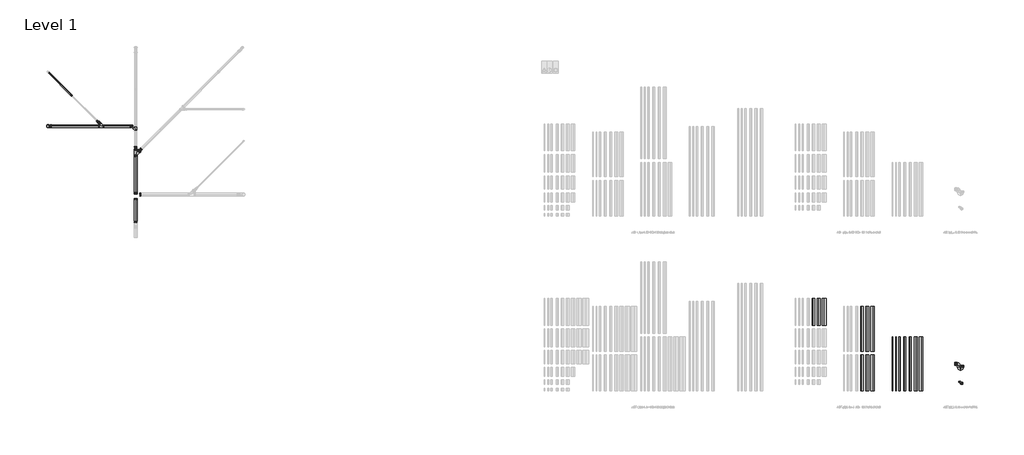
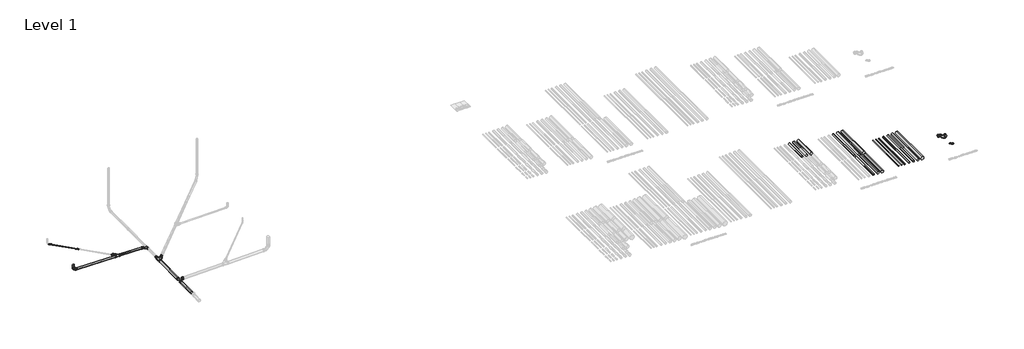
# One storey, part 4 of 13: 54 pipe fittings, 22 pipe segments.
"""IFC4 building model written with IfcOpenShell, lengths in millimetres."""

from ifc_helpers import new_model, si_unit, point, frame, frame_2d, origin, place, context, project, spatial, circle_curve, trimmed, segment, composite_curve, outline, extrude, transform, mapped, element, save
from components import pipe_fitting_1_4301_12527d9e, pipe_fitting_1_4301_4e6f8dee, pipe_fitting_1_4404_370fba09, pipe_fitting_1_4404_e5c46f2f, pipe_fitting_1_4404_a0c9185b, pipe_fitting_1_4404_a6cf7bca, pipe_fitting_1_4404_189c9de8, std_4da191fa, std_1d744fe9, std_806a320d, std_74d0a7f9, std_nested_af07ce19, std_nested_072c2150, std_nested_7f6e179d, std_nested_70f44cd0, std_nested_4988e8d9, std_nested_0eafc151, std_nested_cbfc2923, std_nested_0749ac55, std_nested_b7669297, std_nested_c6c84c1b, std_nested_25d1e1bf, std_nested_4f3602ba, std_nested_4a7fe435, std_nested_083b6aa0, std_nested_beb749c0, std_nested_902816f2, std_nested_fe5946f3

model = new_model("IFC4")

# Units and contexts
model_context = context("Model", 3, world=origin())
ifc_project = project(units=[si_unit("LENGTHUNIT", "METRE", prefix="MILLI")], contexts=[model_context])

# Site, building, storey
site = spatial("IfcSite", under=ifc_project)
building = spatial("IfcBuilding", under=site)
storey = spatial("IfcBuildingStorey", under=building, Name="Level 1", Elevation=0.0)

# Pipe fittings
placement = place(None, origin())
pipe_fitting_1_4301_shape = pipe_fitting_1_4301_12527d9e(model_context)
element("IfcPipeFitting", 1, ObjectType="PIF_ST_UN_ACO pipe p-trap_ACO : 1.4404", at=placement, inside=storey, context=model_context, shape_type="MappedRepresentation", body=[
    mapped(pipe_fitting_1_4301_shape, transform((21621.7461061, -9269.2114353, 0.0), x_axis=(1.0, 0.0, 0.0), y_axis=(0.0, 1.0, 0.0), z_axis=(0.0, 0.0, 1.0))),
])
pipe_fitting_1_4301_2_shape = pipe_fitting_1_4301_4e6f8dee(model_context)
element("IfcPipeFitting", 2, ObjectType="PIF_ST_UN_ACO pipe p-trap_ACO : 1.4404", at=placement, inside=storey, context=model_context, shape_type="MappedRepresentation", body=[
    mapped(pipe_fitting_1_4301_2_shape, transform((21621.7461061, -8269.2114353, 0.0), x_axis=(1.0, 0.0, 0.0), y_axis=(0.0, 1.0, 0.0), z_axis=(0.0, 0.0, 1.0))),
])
pipe_fitting_1_4404_shape = pipe_fitting_1_4404_370fba09(model_context)
element("IfcPipeFitting", 3, ObjectType="PIF_ST_UN_ACO pipe multibranch_ACO : 1.4404", at=placement, inside=storey, context=model_context, shape_type="MappedRepresentation", body=[
    mapped(pipe_fitting_1_4404_shape, transform((-24468.5517039, 4800.4745753, 67.8094351), x_axis=(0.0, 0.9999613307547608, 0.008794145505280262), y_axis=(-0.9998875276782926, -0.00013189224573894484, 0.014997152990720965), z_axis=(0.014997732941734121, -0.008793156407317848, 0.999848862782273))),
])
pipe_fitting_1_4404_2_shape = pipe_fitting_1_4404_e5c46f2f(model_context)
element("IfcPipeFitting", 4, ObjectType="PIF_ST_UN_ACO pipe double bend_ACO : 1.4404", at=placement, inside=storey, context=model_context, shape_type="MappedRepresentation", body=[
    mapped(pipe_fitting_1_4404_2_shape, transform((-29368.5517039, 4998.4437608, 143.0504722), x_axis=(0.0, 0.0, -1.0), y_axis=(1.0, 0.0, 0.0), z_axis=(0.0, -1.0, 0.0))),
])
pipe_fitting_1_4404_3_shape = pipe_fitting_1_4404_a0c9185b(model_context)
element("IfcPipeFitting", 5, ObjectType="PIF_ST_UN_ACO pipe multibranch_ACO : 1.4404", at=placement, inside=storey, context=model_context, shape_type="MappedRepresentation", body=[
    mapped(pipe_fitting_1_4404_3_shape, transform((-24468.5517039, 3423.4023035, 55.6987928), x_axis=(0.0, 0.9999613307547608, 0.008794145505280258), y_axis=(0.9999229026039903, -0.000109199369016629, 0.012416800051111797), z_axis=(0.01241728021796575, 0.008793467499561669, -0.999884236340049))),
])
element("IfcPipeFitting", 6, ObjectType="PIF_ST_UN_ACO pipe multibranch_ACO : 1.4404", at=placement, inside=storey, context=model_context, shape_type="MappedRepresentation", body=[
    mapped(pipe_fitting_1_4404_shape, transform((-26321.0506477, 4998.4437608, 97.3379564), x_axis=(-0.9998875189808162, 0.0, 0.014998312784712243), y_axis=(9.3175288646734e-05, 0.999980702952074, 0.006211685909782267), z_axis=(-0.014998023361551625, 0.0062123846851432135, -0.9998682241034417))),
])
pipe_fitting_1_4404_4_shape = pipe_fitting_1_4404_a6cf7bca(model_context)
element("IfcPipeFitting", 7, ObjectType="PIF_ST_UN_ACO pipe straight coupling_ACO : 1.4404", at=placement, inside=storey, context=model_context, shape_type="MappedRepresentation", body=[
    mapped(pipe_fitting_1_4404_4_shape, transform((-28056.0900887, 6733.2635608, 109.1390415), x_axis=(0.7070272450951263, -0.7070272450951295, -0.01499831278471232), y_axis=(0.014998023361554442, -0.006212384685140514, 0.9998682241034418), z_axis=(-0.7070272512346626, -0.7071590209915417, 0.0062116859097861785))),
])
pipe_fitting_1_4404_5_shape = pipe_fitting_1_4404_189c9de8(model_context)
element("IfcPipeFitting", 8, ObjectType="PIF_ST_UN_ACO pipe multireducer_ACO : 1.4404", at=placement, inside=storey, context=model_context, shape_type="MappedRepresentation", body=[
    mapped(pipe_fitting_1_4404_5_shape, transform((-24468.5517039, 3716.3909734, 58.2754775), x_axis=(0.0, 0.9999613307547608, 0.008794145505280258), y_axis=(-0.9999229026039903, 0.00010919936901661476, -0.01241680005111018), z_axis=(-0.012417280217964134, -0.008793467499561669, 0.999884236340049))),
])
std_shape = std_4da191fa(model_context)
element("IfcPipeFitting", 9, ObjectType="ZZZ_do not use_PIF_ST_UN_ACO pipe increaser coupling_ACO : std", at=placement, inside=storey, context=model_context, shape_type="MappedRepresentation", body=[
    mapped(std_shape, transform((-26485.4344822, 5162.8275953, 100.8250641), x_axis=(-0.7070272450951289, 0.7070272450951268, 0.01499831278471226), y_axis=(0.7070272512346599, 0.7071590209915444, -0.0062116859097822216), z_axis=(-0.014998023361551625, 0.0062123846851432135, -0.9998682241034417))),
])
std_2_shape = std_1d744fe9(model_context)
element("IfcPipeFitting", 10, ObjectType="ZZZ_do not use_PIF_ST_UN_ACO pipe increaser coupling_ACO : std", at=placement, inside=storey, context=model_context, shape_type="MappedRepresentation", body=[
    mapped(std_2_shape, transform((-26568.5101835, 5245.9032966, 102.5873658), x_axis=(-0.7070272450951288, 0.7070272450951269, 0.01499831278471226), y_axis=(0.70702725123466, 0.7071590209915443, -0.006211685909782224), z_axis=(-0.014998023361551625, 0.0062123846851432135, -0.9998682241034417))),
])
std_3_shape = std_806a320d(model_context)
element("IfcPipeFitting", 11, ObjectType="ZZZ_do not use_PIF_ST_UN_ACO pipe increaser coupling_ACO : std", at=placement, inside=storey, context=model_context, shape_type="MappedRepresentation", body=[
    mapped(std_3_shape, transform((-24255.0294758, 3636.9245315, 60.2282833), x_axis=(0.7070272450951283, 0.7070272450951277, 0.014998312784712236), y_axis=(0.7070772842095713, -0.7071316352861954, 0.0025621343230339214), z_axis=(0.012417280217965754, 0.00879346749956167, -0.9998842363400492))),
])
std_4_shape = std_74d0a7f9(model_context)
element("IfcPipeFitting", 12, ObjectType="ZZZ_do not use_PIF_ST_UN_ACO pipe increaser coupling_ACO : std", at=placement, inside=storey, context=model_context, shape_type="MappedRepresentation", body=[
    mapped(std_4_shape, transform((-24468.5517039, 3716.3909734, 58.2754775), x_axis=(0.0, 0.9999613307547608, 0.008794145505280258), y_axis=(-0.9999229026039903, 0.00010919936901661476, -0.01241680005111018), z_axis=(-0.012417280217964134, -0.008793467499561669, 0.999884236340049))),
])
std_nested_shape = std_nested_af07ce19(model_context)
element("IfcPipeFitting", 13, ObjectType="ZZZ_do not use_PIF_ST_UN_ACO pipe socket_ACO : std (nested)", at=placement, inside=storey, context=model_context, shape_type="MappedRepresentation", body=[
    mapped(std_nested_shape, transform((-26529.623685, 5207.0167981, 101.7624586), x_axis=(-0.7070272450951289, 0.7070272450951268, 0.01499831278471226), y_axis=(0.7070272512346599, 0.7071590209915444, -0.006211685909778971), z_axis=(-0.014998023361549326, 0.006212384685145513, -0.9998682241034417))),
])
std_nested_2_shape = std_nested_072c2150(model_context)
element("IfcPipeFitting", 14, ObjectType="ZZZ_do not use_PIF_ST_UN_ACO pipe socket_ACO : std (nested)", at=placement, inside=storey, context=model_context, shape_type="MappedRepresentation", body=[
    mapped(std_nested_2_shape, transform((21621.7461061, -9350.2114353, 0.0), x_axis=(0.0, 1.0, 0.0), y_axis=(1.0, 0.0, 0.0), z_axis=(0.0, 0.0, -1.0))),
])
element("IfcPipeFitting", 15, ObjectType="ZZZ_do not use_PIF_ST_UN_ACO pipe socket_ACO : std (nested)", at=placement, inside=storey, context=model_context, shape_type="MappedRepresentation", body=[
    mapped(std_nested_2_shape, transform((-26607.7716326, 5284.9451047, 78.4155674), x_axis=(-0.7070272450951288, 0.7070272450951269, 0.01499831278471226), y_axis=(0.70702725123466, 0.7071590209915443, -0.006211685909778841), z_axis=(-0.014998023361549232, 0.0062123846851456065, -0.9998682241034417))),
])
element("IfcPipeFitting", 16, ObjectType="ZZZ_do not use_PIF_ST_UN_ACO pipe socket_ACO : std (nested)", at=placement, inside=storey, context=model_context, shape_type="MappedRepresentation", body=[
    mapped(std_nested_2_shape, transform((-28051.4237088, 6728.5971809, 109.0400526), x_axis=(0.7070272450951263, -0.7070272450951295, -0.01499831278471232), y_axis=(-0.014998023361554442, 0.006212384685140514, -0.9998682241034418), z_axis=(0.7070272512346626, 0.7071590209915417, -0.0062116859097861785))),
])
element("IfcPipeFitting", 17, ObjectType="ZZZ_do not use_PIF_ST_UN_ACO pipe socket_ACO : std (nested)", at=placement, inside=storey, context=model_context, shape_type="MappedRepresentation", body=[
    mapped(std_nested_2_shape, transform((-28060.7564685, 6737.9299406, 109.2380304), x_axis=(-0.7070272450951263, 0.7070272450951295, 0.01499831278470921), y_axis=(0.014998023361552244, -0.006212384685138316, 0.9998682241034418), z_axis=(0.7070272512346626, 0.7071590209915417, -0.0062116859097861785))),
])
std_nested_3_shape = std_nested_7f6e179d(model_context)
element("IfcPipeFitting", 18, ObjectType="ZZZ_do not use_PIF_ST_UN_ACO pipe socket_ACO : std (nested)", at=placement, inside=storey, context=model_context, shape_type="MappedRepresentation", body=[
    mapped(std_nested_3_shape, transform((21434.7461061, -9269.2114353, 0.0), x_axis=(-1.0, 0.0, 0.0), y_axis=(0.0, 1.0, 0.0), z_axis=(0.0, 0.0, -1.0))),
])
element("IfcPipeFitting", 19, ObjectType="ZZZ_do not use_PIF_ST_UN_ACO pipe socket_ACO : std (nested)", at=placement, inside=storey, context=model_context, shape_type="MappedRepresentation", body=[
    mapped(std_nested_3_shape, transform((-29282.1495171, 7959.3229892, 135.1476896), x_axis=(0.7070272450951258, -0.70702724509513, -0.014998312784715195), y_axis=(0.010605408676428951, -0.010605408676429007, 0.9998875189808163), z_axis=(-0.7071067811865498, -0.7071067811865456, 0.0))),
])
std_nested_4_shape = std_nested_70f44cd0(model_context)
element("IfcPipeFitting", 20, ObjectType="ZZZ_do not use_PIF_ST_UN_ACO pipe socket_ACO : std (nested)", at=placement, inside=storey, context=model_context, shape_type="MappedRepresentation", body=[
    mapped(std_nested_4_shape, transform((21217.7461061, -8269.2114353, 0.0), x_axis=(-1.0, 0.0, 0.0), y_axis=(0.0, 1.0, 0.0), z_axis=(0.0, 0.0, -1.0))),
])
std_nested_5_shape = std_nested_4988e8d9(model_context)
element("IfcPipeFitting", 21, ObjectType="ZZZ_do not use_PIF_ST_UN_ACO pipe socket_ACO : std (nested)", at=placement, inside=storey, context=model_context, shape_type="MappedRepresentation", body=[
    mapped(std_nested_5_shape, transform((21621.7461061, -8426.2114353, 0.0), x_axis=(0.0, 1.0, 0.0), y_axis=(1.0, 0.0, 0.0), z_axis=(0.0, 0.0, -1.0))),
])
std_nested_6_shape = std_nested_0eafc151(model_context)
element("IfcPipeFitting", 22, ObjectType="ZZZ_do not use_PIF_ST_UN_ACO pipe socket_ACO : std (nested)", at=placement, inside=storey, context=model_context, shape_type="MappedRepresentation", body=[
    mapped(std_nested_6_shape, transform((-26491.0315259, 4998.4437608, 99.8876695), x_axis=(-0.9998875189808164, 0.0, 0.014998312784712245), y_axis=(9.3175288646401e-05, 0.9999807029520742, 0.006211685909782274), z_axis=(-0.014998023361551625, 0.0062123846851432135, -0.9998682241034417))),
])
element("IfcPipeFitting", 23, ObjectType="ZZZ_do not use_PIF_ST_UN_ACO pipe socket_ACO : std (nested)", at=placement, inside=storey, context=model_context, shape_type="MappedRepresentation", body=[
    mapped(std_nested_6_shape, transform((-26441.2452794, 5118.6383924, 99.8876695), x_axis=(-0.7070272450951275, 0.7070272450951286, 0.014998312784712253), y_axis=(0.7070272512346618, 0.707159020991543, -0.006211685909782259), z_axis=(-0.014998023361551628, 0.006212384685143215, -0.9998682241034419))),
])
element("IfcPipeFitting", 24, ObjectType="ZZZ_do not use_PIF_ST_UN_ACO pipe socket_ACO : std (nested)", at=placement, inside=storey, context=model_context, shape_type="MappedRepresentation", body=[
    mapped(std_nested_6_shape, transform((-24716.500654, 4998.4437625, 73.2697065), x_axis=(-0.9998875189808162, 0.0, 0.014998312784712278), y_axis=(-0.000131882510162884, -0.9999613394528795, -0.00879216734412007), z_axis=(0.014997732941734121, -0.008793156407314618, 0.999848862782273))),
])
element("IfcPipeFitting", 25, ObjectType="ZZZ_do not use_PIF_ST_UN_ACO pipe socket_ACO : std (nested)", at=placement, inside=storey, context=model_context, shape_type="MappedRepresentation", body=[
    mapped(std_nested_6_shape, transform((-24468.5517039, 3796.3878799, 58.9790091), x_axis=(0.0, 0.9999613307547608, 0.008794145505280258), y_axis=(-0.9999229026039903, 0.00010919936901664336, -0.012416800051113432), z_axis=(-0.012417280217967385, -0.008793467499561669, 0.999884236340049))),
])
std_nested_7_shape = std_nested_cbfc2923(model_context)
element("IfcPipeFitting", 26, ObjectType="ZZZ_do not use_PIF_ST_UN_ACO pipe bend_ACO : std (nested)", at=placement, inside=storey, context=model_context, shape_type="MappedRepresentation", body=[
    mapped(std_nested_7_shape, transform((-24666.5062781, 4998.4437625, 72.5197908), x_axis=(-0.7069806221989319, 0.7070328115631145, 0.0168226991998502), y_axis=(-0.7070738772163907, -0.7071260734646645, 0.0043872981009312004), z_axis=(0.014997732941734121, -0.008793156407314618, 0.999848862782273))),
])
std_nested_8_shape = std_nested_0749ac55(model_context)
element("IfcPipeFitting", 27, ObjectType="ZZZ_do not use_PIF_ST_UN_ACO pipe branch_ACO : std (nested)", at=placement, inside=storey, context=model_context, shape_type="MappedRepresentation", body=[
    mapped(std_nested_8_shape, transform((-24468.5517039, 4800.4745753, 67.8094351), x_axis=(0.0, 0.999961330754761, 0.008794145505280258), y_axis=(-0.9998875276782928, -0.0001318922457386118, 0.014997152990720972), z_axis=(0.014997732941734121, -0.008793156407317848, 0.999848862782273))),
])
element("IfcPipeFitting", 28, ObjectType="ZZZ_do not use_PIF_ST_UN_ACO pipe socket_ACO : std (nested)", at=placement, inside=storey, context=model_context, shape_type="MappedRepresentation", body=[
    mapped(std_nested_5_shape, transform((-24468.5517039, 3636.3940669, 57.5719458), x_axis=(0.0, 0.999961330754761, 0.008794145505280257), y_axis=(0.9999229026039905, -0.00010919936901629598, 0.012416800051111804), z_axis=(0.01241728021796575, 0.008793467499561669, -0.999884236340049))),
])
element("IfcPipeFitting", 29, ObjectType="ZZZ_do not use_PIF_ST_UN_ACO pipe socket_ACO : std (nested)", at=placement, inside=storey, context=model_context, shape_type="MappedRepresentation", body=[
    mapped(std_nested_5_shape, transform((-24311.5916555, 3580.3623519, 59.0284183), x_axis=(0.7070272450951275, 0.7070272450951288, 0.014998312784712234), y_axis=(0.7070772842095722, -0.7071316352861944, 0.0025621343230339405), z_axis=(0.01241728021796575, 0.008793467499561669, -0.999884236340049))),
])
std_nested_9_shape = std_nested_b7669297(model_context)
element("IfcPipeFitting", 30, ObjectType="ZZZ_do not use_PIF_ST_UN_ACO pipe socket clamp_ACO : std (nested)", at=placement, inside=storey, context=model_context, shape_type="MappedRepresentation", body=[
    mapped(std_nested_9_shape, transform((-24468.5517039, 3689.3920175, 58.0380355), x_axis=(0.0, 0.9999613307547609, 0.008794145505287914), y_axis=(0.01241728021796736, 0.008793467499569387, -0.9998842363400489), z_axis=(-0.9999229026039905, 0.00010919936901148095, -0.012416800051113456))),
])
element("IfcPipeFitting", 31, ObjectType="ZZZ_do not use_PIF_ST_UN_ACO pipe socket clamp_ACO : std (nested)", at=placement, inside=storey, context=model_context, shape_type="MappedRepresentation", body=[
    mapped(std_nested_9_shape, transform((-24274.1192115, 3617.8347959, 59.8233288), x_axis=(0.7070272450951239, 0.7070272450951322, 0.01499831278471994), y_axis=(0.012417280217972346, 0.008793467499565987, -0.9998842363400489), z_axis=(-0.7070772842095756, 0.7071316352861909, -0.0025621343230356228))),
])
element("IfcPipeFitting", 32, ObjectType="ZZZ_do not use_PIF_ST_UN_ACO pipe socket clamp_ACO : std (nested)", at=placement, inside=storey, context=model_context, shape_type="MappedRepresentation", body=[
    mapped(std_nested_9_shape, transform((-24468.5517039, 3357.4048557, 55.1183792), x_axis=(0.0, 0.9999613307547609, 0.008794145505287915), y_axis=(0.01241728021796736, 0.008793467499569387, -0.9998842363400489), z_axis=(-0.9999229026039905, 0.0001091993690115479, -0.012416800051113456))),
])
element("IfcPipeFitting", 33, ObjectType="ZZZ_do not use_PIF_ST_UN_ACO pipe socket_ACO : std (nested)", at=placement, inside=storey, context=model_context, shape_type="MappedRepresentation", body=[
    mapped(std_nested_shape, transform((-24198.7404764, 3693.2932548, 83.4256015), x_axis=(0.7070272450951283, 0.7070272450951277, 0.014998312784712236), y_axis=(0.7070772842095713, -0.7071316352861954, 0.002562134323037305), z_axis=(0.012417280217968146, 0.008793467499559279, -0.9998842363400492))),
])
std_nested_10_shape = std_nested_c6c84c1b(model_context)
element("IfcPipeFitting", 34, ObjectType="ZZZ_do not use_PIF_ST_UN_ACO pipe socket clamp_ACO : std (nested)", at=placement, inside=storey, context=model_context, shape_type="MappedRepresentation", body=[
    mapped(std_nested_10_shape, transform((-24169.0453321, 3722.9883991, 84.0555306), x_axis=(0.7070272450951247, 0.707027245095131, 0.014998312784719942), y_axis=(0.012417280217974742, 0.008793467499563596, -0.9998842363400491), z_axis=(-0.7070772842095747, 0.7071316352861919, -0.0025621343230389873))),
])
std_nested_11_shape = std_nested_25d1e1bf(model_context)
element("IfcPipeFitting", 35, ObjectType="ZZZ_do not use_PIF_ST_UN_ACO pipe branch_ACO : std (nested)", at=placement, inside=storey, context=model_context, shape_type="MappedRepresentation", body=[
    mapped(std_nested_11_shape, transform((-26321.0506477, 4998.4437608, 97.3379564), x_axis=(-0.9998875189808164, 0.0, 0.014998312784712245), y_axis=(9.3175288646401e-05, 0.9999807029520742, 0.006211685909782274), z_axis=(-0.014998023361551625, 0.0062123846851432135, -0.9998682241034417))),
])
std_nested_12_shape = std_nested_4f3602ba(model_context)
element("IfcPipeFitting", 36, ObjectType="ZZZ_do not use_PIF_ST_UN_ACO pipe socket_ACO : std (nested)", at=placement, inside=storey, context=model_context, shape_type="MappedRepresentation", body=[
    mapped(std_nested_12_shape, transform((-29146.2786298, 4998.4437608, 139.7163761), x_axis=(0.9998875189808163, 0.0, -0.014998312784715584), y_axis=(0.01499831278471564, 0.0, 0.9998875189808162), z_axis=(0.0, -1.0000000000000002, 0.0))),
])
element("IfcPipeFitting", 37, ObjectType="ZZZ_do not use_PIF_ST_UN_ACO pipe socket_ACO : std (nested)", at=placement, inside=storey, context=model_context, shape_type="MappedRepresentation", body=[
    mapped(std_nested_12_shape, transform((-26218.0622332, 4998.4437608, 95.7931302), x_axis=(0.9998875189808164, 0.0, -0.014998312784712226), y_axis=(-9.317528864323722e-05, -0.9999807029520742, -0.006211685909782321), z_axis=(-0.014998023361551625, 0.0062123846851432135, -0.9998682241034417))),
])
std_nested_13_shape = std_nested_4a7fe435(model_context)
element("IfcPipeFitting", 38, ObjectType="ZZZ_do not use_PIF_ST_UN_ACO pipe socket clamp two parts_ACO : std (nested)", at=placement, inside=storey, context=model_context, shape_type="MappedRepresentation", body=[
    mapped(std_nested_13_shape, transform((-29193.2733432, 4998.4437608, 140.4212968), x_axis=(-0.9998875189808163, 0.0, 0.014998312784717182), y_axis=(0.0, -1.0000000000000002, 0.0), z_axis=(0.014998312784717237, 0.0, 0.9998875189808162))),
])
element("IfcPipeFitting", 39, ObjectType="ZZZ_do not use_PIF_ST_UN_ACO pipe socket clamp two parts_ACO : std (nested)", at=placement, inside=storey, context=model_context, shape_type="MappedRepresentation", body=[
    mapped(std_nested_13_shape, transform((-29324.3393091, 4998.4437608, 210.4679963), x_axis=(-0.7017840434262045, 0.0, 0.7123897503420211), y_axis=(0.0, -1.0000000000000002, 0.0), z_axis=(0.7123897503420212, 0.0, 0.7017840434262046))),
])
element("IfcPipeFitting", 40, ObjectType="ZZZ_do not use_PIF_ST_UN_ACO pipe socket clamp two parts_ACO : std (nested)", at=placement, inside=storey, context=model_context, shape_type="MappedRepresentation", body=[
    mapped(std_nested_13_shape, transform((-29368.5517039, 4998.4437608, 352.3485506), x_axis=(0.0, 0.0, 1.0), y_axis=(0.0, -1.0, 0.0), z_axis=(1.0, 0.0, 0.0))),
])
element("IfcPipeFitting", 41, ObjectType="ZZZ_do not use_PIF_ST_UN_ACO pipe socket clamp two parts_ACO : std (nested)", at=placement, inside=storey, context=model_context, shape_type="MappedRepresentation", body=[
    mapped(std_nested_13_shape, transform((-26265.0569466, 4998.4437608, 96.4980509), x_axis=(-0.9998875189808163, 0.0, 0.014998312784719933), y_axis=(-0.014998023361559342, 0.006212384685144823, -0.9998682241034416), z_axis=(-9.317528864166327e-05, -0.9999807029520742, -0.006211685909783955))),
])
element("IfcPipeFitting", 42, ObjectType="ZZZ_do not use_PIF_ST_UN_ACO pipe socket_ACO : std (nested)", at=placement, inside=storey, context=model_context, shape_type="MappedRepresentation", body=[
    mapped(std_nested_6_shape, transform((-29291.3554591, 4998.4437608, 176.985678), x_axis=(-0.7017840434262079, 0.0, 0.7123897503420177), y_axis=(-0.7123897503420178, 0.0, -0.701784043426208), z_axis=(0.0, -1.0000000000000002, 0.0))),
])
element("IfcPipeFitting", 43, ObjectType="ZZZ_do not use_PIF_ST_UN_ACO pipe socket_ACO : std (nested)", at=placement, inside=storey, context=model_context, shape_type="MappedRepresentation", body=[
    mapped(std_nested_6_shape, transform((-29368.5517039, 4998.4437608, 305.3485506), x_axis=(0.0, 0.0, 1.0), y_axis=(-1.0, 0.0, 0.0), z_axis=(0.0, -1.0, 0.0))),
])
std_nested_14_shape = std_nested_083b6aa0(model_context)
element("IfcPipeFitting", 44, ObjectType="ZZZ_do not use_PIF_ST_UN_ACO pipe bend_ACO : std (nested)", at=placement, inside=storey, context=model_context, shape_type="MappedRepresentation", body=[
    mapped(std_nested_14_shape, transform((-29368.5517039, 4998.4437608, 255.3485506), x_axis=(0.0, 0.0, -1.0), y_axis=(1.0, 0.0, 0.0), z_axis=(0.0, -1.0, 0.0))),
])
element("IfcPipeFitting", 45, ObjectType="ZZZ_do not use_PIF_ST_UN_ACO pipe bend_ACO : std (nested)", at=placement, inside=storey, context=model_context, shape_type="MappedRepresentation", body=[
    mapped(std_nested_14_shape, transform((-29256.2662569, 4998.4437608, 141.3661905), x_axis=(0.7017840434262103, 0.0, -0.7123897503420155), y_axis=(0.7123897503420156, 0.0, 0.7017840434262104), z_axis=(0.0, -1.0000000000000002, 0.0))),
])
std_nested_15_shape = std_nested_beb749c0(model_context)
element("IfcPipeFitting", 46, ObjectType="ZZZ_do not use_PIF_ST_UN_ACO pipe branch_ACO : std (nested)", at=placement, inside=storey, context=model_context, shape_type="MappedRepresentation", body=[
    mapped(std_nested_15_shape, transform((-24468.5517039, 3423.4023035, 55.6987928), x_axis=(0.0, 0.999961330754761, 0.008794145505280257), y_axis=(0.9999229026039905, -0.00010919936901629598, 0.012416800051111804), z_axis=(0.01241728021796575, 0.008793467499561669, -0.999884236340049))),
])
element("IfcPipeFitting", 47, ObjectType="ZZZ_do not use_PIF_ST_UN_ACO pipe socket_ACO : std (nested)", at=placement, inside=storey, context=model_context, shape_type="MappedRepresentation", body=[
    mapped(std_nested_4_shape, transform((-24468.5517039, 3304.4069051, 54.6522895), x_axis=(0.0, -0.999961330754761, -0.008794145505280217), y_axis=(-0.9999229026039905, 0.00010919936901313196, -0.012416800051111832), z_axis=(0.01241728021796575, 0.008793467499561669, -0.999884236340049))),
])
element("IfcPipeFitting", 48, ObjectType="ZZZ_do not use_PIF_ST_UN_ACO pipe socket_ACO : std (nested)", at=placement, inside=storey, context=model_context, shape_type="MappedRepresentation", body=[
    mapped(std_nested_5_shape, transform((-24468.5517039, 1229.5443159, 36.4049404), x_axis=(0.0, 0.9999613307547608, 0.00879414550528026), y_axis=(0.9998875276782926, -0.0001318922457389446, 0.014997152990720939), z_axis=(0.014997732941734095, 0.008793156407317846, -0.999848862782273))),
])
element("IfcPipeFitting", 49, ObjectType="ZZZ_do not use_PIF_ST_UN_ACO pipe socket_ACO : std (nested)", at=placement, inside=storey, context=model_context, shape_type="MappedRepresentation", body=[
    mapped(std_nested_5_shape, transform((-24245.0768434, 1191.2457969, 39.4202475), x_axis=(0.9998875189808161, 0.0, 0.014998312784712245), y_axis=(0.00013188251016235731, -0.9999613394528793, -0.008792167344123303), z_axis=(0.014997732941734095, 0.008793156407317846, -0.999848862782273))),
])
element("IfcPipeFitting", 50, ObjectType="ZZZ_do not use_PIF_ST_UN_ACO pipe socket_ACO : std (nested)", at=placement, inside=storey, context=model_context, shape_type="MappedRepresentation", body=[
    mapped(std_nested_4_shape, transform((-24468.5517039, 897.557154, 33.4852841), x_axis=(0.0, -0.9999613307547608, -0.008794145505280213), y_axis=(-0.9998875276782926, 0.0001318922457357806, -0.014997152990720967), z_axis=(0.014997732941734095, 0.008793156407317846, -0.999848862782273))),
])
std_nested_16_shape = std_nested_902816f2(model_context)
element("IfcPipeFitting", 51, ObjectType="ZZZ_do not use_PIF_ST_UN_ACO pipe socket clamp two parts_ACO : std (nested)", at=placement, inside=storey, context=model_context, shape_type="MappedRepresentation", body=[
    mapped(std_nested_16_shape, transform((-24468.5517039, 1282.5422664, 36.8710301), x_axis=(0.0, 0.9999613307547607, 0.008794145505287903), y_axis=(0.014997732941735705, 0.008793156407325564, -0.9998488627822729), z_axis=(-0.9998875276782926, 0.00013189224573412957, -0.01499715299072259))),
])
element("IfcPipeFitting", 52, ObjectType="ZZZ_do not use_PIF_ST_UN_ACO pipe socket clamp two parts_ACO : std (nested)", at=placement, inside=storey, context=model_context, shape_type="MappedRepresentation", body=[
    mapped(std_nested_16_shape, transform((-24468.5517039, 950.5551046, 33.9513738), x_axis=(0.0, 0.9999613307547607, 0.008794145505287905), y_axis=(0.014997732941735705, 0.008793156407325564, -0.9998488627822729), z_axis=(-0.9998875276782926, 0.00013189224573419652, -0.01499715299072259))),
])
std_nested_17_shape = std_nested_fe5946f3(model_context)
element("IfcPipeFitting", 53, ObjectType="ZZZ_do not use_PIF_ST_UN_ACO pipe multireducer_ACO : std (nested)", at=placement, inside=storey, context=model_context, shape_type="MappedRepresentation", body=[
    mapped(std_nested_17_shape, transform((-26524.3209807, 5201.7140937, 101.6499713), x_axis=(-0.7070272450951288, 0.7070272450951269, 0.01499831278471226), y_axis=(0.70702725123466, 0.7071590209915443, -0.006211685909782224), z_axis=(-0.014998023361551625, 0.0062123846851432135, -0.9998682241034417))),
])
element("IfcPipeFitting", 54, ObjectType="ZZZ_do not use_PIF_ST_UN_ACO pipe multireducer_ACO : std (nested)", at=placement, inside=storey, context=model_context, shape_type="MappedRepresentation", body=[
    mapped(pipe_fitting_1_4404_5_shape, transform((-24255.0294758, 3636.9245315, 60.2282833), x_axis=(0.7070272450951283, 0.7070272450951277, 0.014998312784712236), y_axis=(0.7070772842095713, -0.7071316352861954, 0.0025621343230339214), z_axis=(0.012417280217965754, 0.00879346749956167, -0.9998842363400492))),
])

# Pipe segments
element("IfcPipeSegment", 55, ObjectType="ACO pipe 1.4404 OD (complex)", at=placement, inside=storey, context=model_context, shape_type="SweptSolid", body=[
    extrude(outline(composite_curve([segment(trimmed(circle_curve(frame_2d((0.0, 13321.7461061)), 62.5), [point((0.0, 13384.2461061))], [point((62.5, 13321.7461061))], False, "CARTESIAN"), True, "CONTINUOUS"), segment(trimmed(circle_curve(frame_2d((0.0, 13321.7461061)), 62.5), [point((62.5, 13321.7461061))], [point((0.0, 13259.2461061))], False, "CARTESIAN"), True, "CONTINUOUS"), segment(trimmed(circle_curve(frame_2d((0.0, 13321.7461061)), 62.5), [point((0.0, 13259.2461061))], [point((-62.5, 13321.7461061))], False, "CARTESIAN"), True, "CONTINUOUS"), segment(trimmed(circle_curve(frame_2d((0.0, 13321.7461061)), 62.5), [point((-62.5, 13321.7461061))], [point((0.0, 13384.2461061))], False, "CARTESIAN"), True, "CONTINUOUS")], self_intersect=False)), frame((0.0, -6119.2114353, 0.0), z_axis=(0.0, 1.0, 0.0), x_axis=(0.0, 0.0, 1.0)), (0.0, 0.0, 1.0), 1500.0),
])
element("IfcPipeSegment", 56, ObjectType="ACO pipe 1.4404 OD (complex)", at=placement, inside=storey, context=model_context, shape_type="SweptSolid", body=[
    extrude(outline(composite_curve([segment(trimmed(circle_curve(frame_2d((0.0, 13621.7461061)), 80.0), [point((0.0, 13701.7461061))], [point((80.0, 13621.7461061))], False, "CARTESIAN"), True, "CONTINUOUS"), segment(trimmed(circle_curve(frame_2d((0.0, 13621.7461061)), 80.0), [point((80.0, 13621.7461061))], [point((0.0, 13541.7461061))], False, "CARTESIAN"), True, "CONTINUOUS"), segment(trimmed(circle_curve(frame_2d((0.0, 13621.7461061)), 80.0), [point((0.0, 13541.7461061))], [point((-80.0, 13621.7461061))], False, "CARTESIAN"), True, "CONTINUOUS"), segment(trimmed(circle_curve(frame_2d((0.0, 13621.7461061)), 80.0), [point((-80.0, 13621.7461061))], [point((0.0, 13701.7461061))], False, "CARTESIAN"), True, "CONTINUOUS")], self_intersect=False)), frame((0.0, -6119.2114353, 0.0), z_axis=(0.0, 1.0, 0.0), x_axis=(0.0, 0.0, 1.0)), (0.0, 0.0, 1.0), 1500.0),
])
element("IfcPipeSegment", 57, ObjectType="ACO pipe 1.4404 OD (complex)", at=placement, inside=storey, context=model_context, shape_type="SweptSolid", body=[
    extrude(outline(composite_curve([segment(trimmed(circle_curve(frame_2d((0.0, 13921.7461061)), 100.0), [point((0.0, 14021.7461061))], [point((100.0, 13921.7461061))], False, "CARTESIAN"), True, "CONTINUOUS"), segment(trimmed(circle_curve(frame_2d((0.0, 13921.7461061)), 100.0), [point((100.0, 13921.7461061))], [point((0.0, 13821.7461061))], False, "CARTESIAN"), True, "CONTINUOUS"), segment(trimmed(circle_curve(frame_2d((0.0, 13921.7461061)), 100.0), [point((0.0, 13821.7461061))], [point((-100.0, 13921.7461061))], False, "CARTESIAN"), True, "CONTINUOUS"), segment(trimmed(circle_curve(frame_2d((0.0, 13921.7461061)), 100.0), [point((-100.0, 13921.7461061))], [point((0.0, 14021.7461061))], False, "CARTESIAN"), True, "CONTINUOUS")], self_intersect=False)), frame((0.0, -6119.2114353, 0.0), z_axis=(0.0, 1.0, 0.0), x_axis=(0.0, 0.0, 1.0)), (0.0, 0.0, 1.0), 1500.0),
])
element("IfcPipeSegment", 58, ObjectType="ACO pipe 1.4404 OD (complex)", at=placement, inside=storey, context=model_context, shape_type="SweptSolid", body=[
    extrude(outline(composite_curve([segment(trimmed(circle_curve(frame_2d((0.0, 16021.7461061)), 62.5), [point((0.0, 16084.2461061))], [point((62.5, 16021.7461061))], False, "CARTESIAN"), True, "CONTINUOUS"), segment(trimmed(circle_curve(frame_2d((0.0, 16021.7461061)), 62.5), [point((62.5, 16021.7461061))], [point((0.0, 15959.2461061))], False, "CARTESIAN"), True, "CONTINUOUS"), segment(trimmed(circle_curve(frame_2d((0.0, 16021.7461061)), 62.5), [point((0.0, 15959.2461061))], [point((-62.5, 16021.7461061))], False, "CARTESIAN"), True, "CONTINUOUS"), segment(trimmed(circle_curve(frame_2d((0.0, 16021.7461061)), 62.5), [point((-62.5, 16021.7461061))], [point((0.0, 16084.2461061))], False, "CARTESIAN"), True, "CONTINUOUS")], self_intersect=False)), frame((0.0, -9769.2114353, 0.0), z_axis=(0.0, 1.0, 0.0), x_axis=(0.0, 0.0, 1.0)), (0.0, 0.0, 1.0), 2000.0),
])
element("IfcPipeSegment", 59, ObjectType="ACO pipe 1.4404 OD (complex)", at=placement, inside=storey, context=model_context, shape_type="SweptSolid", body=[
    extrude(outline(composite_curve([segment(trimmed(circle_curve(frame_2d((0.0, 16321.7461061)), 80.0), [point((0.0, 16401.7461061))], [point((80.0, 16321.7461061))], False, "CARTESIAN"), True, "CONTINUOUS"), segment(trimmed(circle_curve(frame_2d((0.0, 16321.7461061)), 80.0), [point((80.0, 16321.7461061))], [point((0.0, 16241.7461061))], False, "CARTESIAN"), True, "CONTINUOUS"), segment(trimmed(circle_curve(frame_2d((0.0, 16321.7461061)), 80.0), [point((0.0, 16241.7461061))], [point((-80.0, 16321.7461061))], False, "CARTESIAN"), True, "CONTINUOUS"), segment(trimmed(circle_curve(frame_2d((0.0, 16321.7461061)), 80.0), [point((-80.0, 16321.7461061))], [point((0.0, 16401.7461061))], False, "CARTESIAN"), True, "CONTINUOUS")], self_intersect=False)), frame((0.0, -9769.2114353, 0.0), z_axis=(0.0, 1.0, 0.0), x_axis=(0.0, 0.0, 1.0)), (0.0, 0.0, 1.0), 2000.0),
])
element("IfcPipeSegment", 60, ObjectType="ACO pipe 1.4404 OD (complex)", at=placement, inside=storey, context=model_context, shape_type="SweptSolid", body=[
    extrude(outline(composite_curve([segment(trimmed(circle_curve(frame_2d((0.0, 16621.7461061)), 100.0), [point((0.0, 16721.7461061))], [point((100.0, 16621.7461061))], False, "CARTESIAN"), True, "CONTINUOUS"), segment(trimmed(circle_curve(frame_2d((0.0, 16621.7461061)), 100.0), [point((100.0, 16621.7461061))], [point((0.0, 16521.7461061))], False, "CARTESIAN"), True, "CONTINUOUS"), segment(trimmed(circle_curve(frame_2d((0.0, 16621.7461061)), 100.0), [point((0.0, 16521.7461061))], [point((-100.0, 16621.7461061))], False, "CARTESIAN"), True, "CONTINUOUS"), segment(trimmed(circle_curve(frame_2d((0.0, 16621.7461061)), 100.0), [point((-100.0, 16621.7461061))], [point((0.0, 16721.7461061))], False, "CARTESIAN"), True, "CONTINUOUS")], self_intersect=False)), frame((0.0, -9769.2114353, 0.0), z_axis=(0.0, 1.0, 0.0), x_axis=(0.0, 0.0, 1.0)), (0.0, 0.0, 1.0), 2000.0),
])
element("IfcPipeSegment", 61, ObjectType="ACO pipe 1.4404 OD (complex)", at=placement, inside=storey, context=model_context, shape_type="SweptSolid", body=[
    extrude(outline(composite_curve([segment(trimmed(circle_curve(frame_2d((0.0, 16021.7461061)), 62.5), [point((0.0, 16084.2461061))], [point((62.5, 16021.7461061))], False, "CARTESIAN"), True, "CONTINUOUS"), segment(trimmed(circle_curve(frame_2d((0.0, 16021.7461061)), 62.5), [point((62.5, 16021.7461061))], [point((0.0, 15959.2461061))], False, "CARTESIAN"), True, "CONTINUOUS"), segment(trimmed(circle_curve(frame_2d((0.0, 16021.7461061)), 62.5), [point((0.0, 15959.2461061))], [point((-62.5, 16021.7461061))], False, "CARTESIAN"), True, "CONTINUOUS"), segment(trimmed(circle_curve(frame_2d((0.0, 16021.7461061)), 62.5), [point((-62.5, 16021.7461061))], [point((0.0, 16084.2461061))], False, "CARTESIAN"), True, "CONTINUOUS")], self_intersect=False)), frame((0.0, -7569.2114353, 0.0), z_axis=(0.0, 1.0, 0.0), x_axis=(0.0, 0.0, 1.0)), (0.0, 0.0, 1.0), 2500.0),
])
element("IfcPipeSegment", 62, ObjectType="ACO pipe 1.4404 OD (complex)", at=placement, inside=storey, context=model_context, shape_type="SweptSolid", body=[
    extrude(outline(composite_curve([segment(trimmed(circle_curve(frame_2d((0.0, 16321.7461061)), 80.0), [point((0.0, 16401.7461061))], [point((80.0, 16321.7461061))], False, "CARTESIAN"), True, "CONTINUOUS"), segment(trimmed(circle_curve(frame_2d((0.0, 16321.7461061)), 80.0), [point((80.0, 16321.7461061))], [point((0.0, 16241.7461061))], False, "CARTESIAN"), True, "CONTINUOUS"), segment(trimmed(circle_curve(frame_2d((0.0, 16321.7461061)), 80.0), [point((0.0, 16241.7461061))], [point((-80.0, 16321.7461061))], False, "CARTESIAN"), True, "CONTINUOUS"), segment(trimmed(circle_curve(frame_2d((0.0, 16321.7461061)), 80.0), [point((-80.0, 16321.7461061))], [point((0.0, 16401.7461061))], False, "CARTESIAN"), True, "CONTINUOUS")], self_intersect=False)), frame((0.0, -7569.2114353, 0.0), z_axis=(0.0, 1.0, 0.0), x_axis=(0.0, 0.0, 1.0)), (0.0, 0.0, 1.0), 2500.0),
])
element("IfcPipeSegment", 63, ObjectType="ACO pipe 1.4404 OD (complex)", at=placement, inside=storey, context=model_context, shape_type="SweptSolid", body=[
    extrude(outline(composite_curve([segment(trimmed(circle_curve(frame_2d((0.0, 16621.7461061)), 100.0), [point((0.0, 16721.7461061))], [point((100.0, 16621.7461061))], False, "CARTESIAN"), True, "CONTINUOUS"), segment(trimmed(circle_curve(frame_2d((0.0, 16621.7461061)), 100.0), [point((100.0, 16621.7461061))], [point((0.0, 16521.7461061))], False, "CARTESIAN"), True, "CONTINUOUS"), segment(trimmed(circle_curve(frame_2d((0.0, 16621.7461061)), 100.0), [point((0.0, 16521.7461061))], [point((-100.0, 16621.7461061))], False, "CARTESIAN"), True, "CONTINUOUS"), segment(trimmed(circle_curve(frame_2d((0.0, 16621.7461061)), 100.0), [point((-100.0, 16621.7461061))], [point((0.0, 16721.7461061))], False, "CARTESIAN"), True, "CONTINUOUS")], self_intersect=False)), frame((0.0, -7569.2114353, 0.0), z_axis=(0.0, 1.0, 0.0), x_axis=(0.0, 0.0, 1.0)), (0.0, 0.0, 1.0), 2500.0),
])
element("IfcPipeSegment", 64, ObjectType="ACO pipe 1.4404 OD (complex)", at=placement, inside=storey, context=model_context, shape_type="SweptSolid", body=[
    extrude(outline(composite_curve([segment(trimmed(circle_curve(frame_2d((0.0, 17721.7461061)), 20.0), [point((0.0, 17741.7461061))], [point((20.0, 17721.7461061))], False, "CARTESIAN"), True, "CONTINUOUS"), segment(trimmed(circle_curve(frame_2d((0.0, 17721.7461061)), 20.0), [point((20.0, 17721.7461061))], [point((0.0, 17701.7461061))], False, "CARTESIAN"), True, "CONTINUOUS"), segment(trimmed(circle_curve(frame_2d((0.0, 17721.7461061)), 20.0), [point((0.0, 17701.7461061))], [point((-20.0, 17721.7461061))], False, "CARTESIAN"), True, "CONTINUOUS"), segment(trimmed(circle_curve(frame_2d((0.0, 17721.7461061)), 20.0), [point((-20.0, 17721.7461061))], [point((0.0, 17741.7461061))], False, "CARTESIAN"), True, "CONTINUOUS")], self_intersect=False)), frame((0.0, -9769.2114353, 0.0), z_axis=(0.0, 1.0, 0.0), x_axis=(0.0, 0.0, 1.0)), (0.0, 0.0, 1.0), 3000.0),
])
element("IfcPipeSegment", 65, ObjectType="ACO pipe 1.4404 OD (complex)", at=placement, inside=storey, context=model_context, shape_type="SweptSolid", body=[
    extrude(outline(composite_curve([segment(trimmed(circle_curve(frame_2d((0.0, 17921.7461061)), 25.0), [point((0.0, 17946.7461061))], [point((25.0, 17921.7461061))], False, "CARTESIAN"), True, "CONTINUOUS"), segment(trimmed(circle_curve(frame_2d((0.0, 17921.7461061)), 25.0), [point((25.0, 17921.7461061))], [point((0.0, 17896.7461061))], False, "CARTESIAN"), True, "CONTINUOUS"), segment(trimmed(circle_curve(frame_2d((0.0, 17921.7461061)), 25.0), [point((0.0, 17896.7461061))], [point((-25.0, 17921.7461061))], False, "CARTESIAN"), True, "CONTINUOUS"), segment(trimmed(circle_curve(frame_2d((0.0, 17921.7461061)), 25.0), [point((-25.0, 17921.7461061))], [point((0.0, 17946.7461061))], False, "CARTESIAN"), True, "CONTINUOUS")], self_intersect=False)), frame((0.0, -9769.2114353, 0.0), z_axis=(0.0, 1.0, 0.0), x_axis=(0.0, 0.0, 1.0)), (0.0, 0.0, 1.0), 3000.0),
])
element("IfcPipeSegment", 66, ObjectType="ACO pipe 1.4404 OD (complex)", at=placement, inside=storey, context=model_context, shape_type="SweptSolid", body=[
    extrude(outline(composite_curve([segment(trimmed(circle_curve(frame_2d((0.0, 18121.7461061)), 37.5), [point((0.0, 18159.2461061))], [point((37.5, 18121.7461061))], False, "CARTESIAN"), True, "CONTINUOUS"), segment(trimmed(circle_curve(frame_2d((0.0, 18121.7461061)), 37.5), [point((37.5, 18121.7461061))], [point((0.0, 18084.2461061))], False, "CARTESIAN"), True, "CONTINUOUS"), segment(trimmed(circle_curve(frame_2d((0.0, 18121.7461061)), 37.5), [point((0.0, 18084.2461061))], [point((-37.5, 18121.7461061))], False, "CARTESIAN"), True, "CONTINUOUS"), segment(trimmed(circle_curve(frame_2d((0.0, 18121.7461061)), 37.5), [point((-37.5, 18121.7461061))], [point((0.0, 18159.2461061))], False, "CARTESIAN"), True, "CONTINUOUS")], self_intersect=False)), frame((0.0, -9769.2114353, 0.0), z_axis=(0.0, 1.0, 0.0), x_axis=(0.0, 0.0, 1.0)), (0.0, 0.0, 1.0), 3000.0),
])
element("IfcPipeSegment", 67, ObjectType="ACO pipe 1.4404 OD (complex)", at=placement, inside=storey, context=model_context, shape_type="SweptSolid", body=[
    extrude(outline(composite_curve([segment(trimmed(circle_curve(frame_2d((0.0, 18421.7461061)), 55.0), [point((0.0, 18476.7461061))], [point((55.0, 18421.7461061))], False, "CARTESIAN"), True, "CONTINUOUS"), segment(trimmed(circle_curve(frame_2d((0.0, 18421.7461061)), 55.0), [point((55.0, 18421.7461061))], [point((0.0, 18366.7461061))], False, "CARTESIAN"), True, "CONTINUOUS"), segment(trimmed(circle_curve(frame_2d((0.0, 18421.7461061)), 55.0), [point((0.0, 18366.7461061))], [point((-55.0, 18421.7461061))], False, "CARTESIAN"), True, "CONTINUOUS"), segment(trimmed(circle_curve(frame_2d((0.0, 18421.7461061)), 55.0), [point((-55.0, 18421.7461061))], [point((0.0, 18476.7461061))], False, "CARTESIAN"), True, "CONTINUOUS")], self_intersect=False)), frame((0.0, -9769.2114353, 0.0), z_axis=(0.0, 1.0, 0.0), x_axis=(0.0, 0.0, 1.0)), (0.0, 0.0, 1.0), 3000.0),
])
element("IfcPipeSegment", 68, ObjectType="ACO pipe 1.4404 OD (complex)", at=placement, inside=storey, context=model_context, shape_type="SweptSolid", body=[
    extrude(outline(composite_curve([segment(trimmed(circle_curve(frame_2d((0.0, 18721.7461061)), 62.5), [point((0.0, 18784.2461061))], [point((62.5, 18721.7461061))], False, "CARTESIAN"), True, "CONTINUOUS"), segment(trimmed(circle_curve(frame_2d((0.0, 18721.7461061)), 62.5), [point((62.5, 18721.7461061))], [point((0.0, 18659.2461061))], False, "CARTESIAN"), True, "CONTINUOUS"), segment(trimmed(circle_curve(frame_2d((0.0, 18721.7461061)), 62.5), [point((0.0, 18659.2461061))], [point((-62.5, 18721.7461061))], False, "CARTESIAN"), True, "CONTINUOUS"), segment(trimmed(circle_curve(frame_2d((0.0, 18721.7461061)), 62.5), [point((-62.5, 18721.7461061))], [point((0.0, 18784.2461061))], False, "CARTESIAN"), True, "CONTINUOUS")], self_intersect=False)), frame((0.0, -9769.2114353, 0.0), z_axis=(0.0, 1.0, 0.0), x_axis=(0.0, 0.0, 1.0)), (0.0, 0.0, 1.0), 3000.0),
])
element("IfcPipeSegment", 69, ObjectType="ACO pipe 1.4404 OD (complex)", at=placement, inside=storey, context=model_context, shape_type="SweptSolid", body=[
    extrude(outline(composite_curve([segment(trimmed(circle_curve(frame_2d((0.0, 19021.7461061)), 80.0), [point((0.0, 19101.7461061))], [point((80.0, 19021.7461061))], False, "CARTESIAN"), True, "CONTINUOUS"), segment(trimmed(circle_curve(frame_2d((0.0, 19021.7461061)), 80.0), [point((80.0, 19021.7461061))], [point((0.0, 18941.7461061))], False, "CARTESIAN"), True, "CONTINUOUS"), segment(trimmed(circle_curve(frame_2d((0.0, 19021.7461061)), 80.0), [point((0.0, 18941.7461061))], [point((-80.0, 19021.7461061))], False, "CARTESIAN"), True, "CONTINUOUS"), segment(trimmed(circle_curve(frame_2d((0.0, 19021.7461061)), 80.0), [point((-80.0, 19021.7461061))], [point((0.0, 19101.7461061))], False, "CARTESIAN"), True, "CONTINUOUS")], self_intersect=False)), frame((0.0, -9769.2114353, 0.0), z_axis=(0.0, 1.0, 0.0), x_axis=(0.0, 0.0, 1.0)), (0.0, 0.0, 1.0), 3000.0),
])
element("IfcPipeSegment", 70, ObjectType="ACO pipe 1.4404 OD (complex)", at=placement, inside=storey, context=model_context, shape_type="SweptSolid", body=[
    extrude(outline(composite_curve([segment(trimmed(circle_curve(frame_2d((0.0, 19321.7461061)), 100.0), [point((0.0, 19421.7461061))], [point((100.0, 19321.7461061))], False, "CARTESIAN"), True, "CONTINUOUS"), segment(trimmed(circle_curve(frame_2d((0.0, 19321.7461061)), 100.0), [point((100.0, 19321.7461061))], [point((0.0, 19221.7461061))], False, "CARTESIAN"), True, "CONTINUOUS"), segment(trimmed(circle_curve(frame_2d((0.0, 19321.7461061)), 100.0), [point((0.0, 19221.7461061))], [point((-100.0, 19321.7461061))], False, "CARTESIAN"), True, "CONTINUOUS"), segment(trimmed(circle_curve(frame_2d((0.0, 19321.7461061)), 100.0), [point((-100.0, 19321.7461061))], [point((0.0, 19421.7461061))], False, "CARTESIAN"), True, "CONTINUOUS")], self_intersect=False)), frame((0.0, -9769.2114353, 0.0), z_axis=(0.0, 1.0, 0.0), x_axis=(0.0, 0.0, 1.0)), (0.0, 0.0, 1.0), 3000.0),
])
element("IfcPipeSegment", 71, ObjectType="ACO pipe 1.4404 OD (complex)", at=placement, inside=storey, context=model_context, shape_type="SweptSolid", body=[
    extrude(outline(composite_curve([segment(trimmed(circle_curve(frame_2d((0.0, -62.5)), 62.5), [point((0.0, -125.0))], [point((-62.5, -62.5))], False, "CARTESIAN"), True, "CONTINUOUS"), segment(trimmed(circle_curve(frame_2d((0.0, -62.5)), 62.5), [point((-62.5, -62.5))], [point((0.0, 0.0))], False, "CARTESIAN"), True, "CONTINUOUS"), segment(trimmed(circle_curve(frame_2d((0.0, -62.5)), 62.5), [point((0.0, 0.0))], [point((62.5000001, -62.5))], False, "CARTESIAN"), True, "CONTINUOUS"), segment(trimmed(circle_curve(frame_2d((0.0, -62.5)), 62.5), [point((62.5000001, -62.5))], [point((0.0, -125.0))], False, "CARTESIAN"), True, "CONTINUOUS")], self_intersect=False)), frame((-24716.5006523, 5060.9437608, 73.2697064), z_axis=(-0.9998875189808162, 0.0, 0.0149983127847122), x_axis=(0.0149983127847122, 0.0, 0.9998875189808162)), (0.0, 0.0, 1.0), 1501.7304971),
])
element("IfcPipeSegment", 72, ObjectType="ACO pipe 1.4404 OD (complex)", at=placement, inside=storey, context=model_context, shape_type="SweptSolid", body=[
    extrude(outline(composite_curve([segment(trimmed(circle_curve(frame_2d((0.0, -80.0)), 80.0), [point((-80.0, -80.0))], [point((0.0, 0.0))], False, "CARTESIAN"), True, "CONTINUOUS"), segment(trimmed(circle_curve(frame_2d((0.0, -80.0)), 80.0), [point((0.0, 0.0))], [point((80.0, -80.0))], False, "CARTESIAN"), True, "CONTINUOUS"), segment(trimmed(circle_curve(frame_2d((0.0, -80.0)), 80.0), [point((80.0, -80.0))], [point((0.0, -160.0))], False, "CARTESIAN"), True, "CONTINUOUS"), segment(trimmed(circle_curve(frame_2d((0.0, -80.0)), 80.0), [point((0.0, -160.0))], [point((-80.0, -80.0))], False, "CARTESIAN"), True, "CONTINUOUS")], self_intersect=False)), frame((-24468.5517039, 1230.2478475, -43.5919661), z_axis=(0.0, 0.9999613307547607, 0.008794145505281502), x_axis=(1.0, 0.0, 0.0)), (0.0, 0.0, 1.0), 2074.9428257),
])
element("IfcPipeSegment", 73, ObjectType="ACO pipe 1.4404 OD (complex)", at=placement, inside=storey, context=model_context, shape_type="SweptSolid", body=[
    extrude(outline(composite_curve([segment(trimmed(circle_curve(frame_2d((0.0, 80.0)), 80.0), [point((80.0, 80.0))], [point((0.0, 0.0))], False, "CARTESIAN"), True, "CONTINUOUS"), segment(trimmed(circle_curve(frame_2d((0.0, 80.0)), 80.0), [point((0.0, 0.0))], [point((-80.0, 80.0))], False, "CARTESIAN"), True, "CONTINUOUS"), segment(trimmed(circle_curve(frame_2d((0.0, 80.0)), 80.0), [point((-80.0, 80.0))], [point((0.0, 160.0000001))], False, "CARTESIAN"), True, "CONTINUOUS"), segment(trimmed(circle_curve(frame_2d((0.0, 80.0)), 80.0), [point((0.0, 160.0000001))], [point((80.0, 80.0))], False, "CARTESIAN"), True, "CONTINUOUS")], self_intersect=False)), frame((-24468.5517039, -387.3742596, 93.5750248), z_axis=(0.0, 0.9998798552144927, 0.015500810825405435), x_axis=(1.0, 0.0, 0.0)), (0.0, 0.0, 1.0), 1283.8455961),
])
element("IfcPipeSegment", 74, ObjectType="ACO pipe 1.4404 OD (complex)", at=placement, inside=storey, context=model_context, shape_type="SweptSolid", body=[
    extrude(outline(composite_curve([segment(trimmed(circle_curve(frame_2d((-29368.5517039, 4998.4437608)), 62.5), [point((-29306.0517039, 4998.4437608))], [point((-29368.5517039, 4935.9437608))], False, "CARTESIAN"), True, "CONTINUOUS"), segment(trimmed(circle_curve(frame_2d((-29368.5517039, 4998.4437608)), 62.5), [point((-29368.5517039, 4935.9437608))], [point((-29431.0517039, 4998.4437608))], False, "CARTESIAN"), True, "CONTINUOUS"), segment(trimmed(circle_curve(frame_2d((-29368.5517039, 4998.4437608)), 62.5), [point((-29431.0517039, 4998.4437608))], [point((-29368.5517039, 5060.9437608))], False, "CARTESIAN"), True, "CONTINUOUS"), segment(trimmed(circle_curve(frame_2d((-29368.5517039, 4998.4437608)), 62.5), [point((-29368.5517039, 5060.9437608))], [point((-29306.0517039, 4998.4437608))], False, "CARTESIAN"), True, "CONTINUOUS")], self_intersect=False)), frame((0.0, 0.0, 305.3485506), z_axis=(0.0, 0.0, 1.0), x_axis=(1.0, 0.0, 0.0)), (0.0, 0.0, 1.0), 194.6514494),
])
element("IfcPipeSegment", 75, ObjectType="ACO pipe 1.4404 OD (complex)", at=placement, inside=storey, context=model_context, shape_type="SweptSolid", body=[
    extrude(outline(composite_curve([segment(trimmed(circle_curve(frame_2d((0.0, -62.5)), 62.5), [point((0.0, -125.0))], [point((-62.5, -62.5))], False, "CARTESIAN"), True, "CONTINUOUS"), segment(trimmed(circle_curve(frame_2d((0.0, -62.5)), 62.5), [point((-62.5, -62.5))], [point((0.0, 0.0))], False, "CARTESIAN"), True, "CONTINUOUS"), segment(trimmed(circle_curve(frame_2d((0.0, -62.5)), 62.5), [point((0.0, 0.0))], [point((62.5000001, -62.5))], False, "CARTESIAN"), True, "CONTINUOUS"), segment(trimmed(circle_curve(frame_2d((0.0, -62.5)), 62.5), [point((62.5000001, -62.5))], [point((0.0, -125.0))], False, "CARTESIAN"), True, "CONTINUOUS")], self_intersect=False)), frame((-26491.0315259, 5060.9437608, 99.8876695), z_axis=(-0.9998875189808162, 0.0, 0.014998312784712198), x_axis=(0.014998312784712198, 0.0, 0.9998875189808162)), (0.0, 0.0, 1.0), 2655.5458024),
])
element("IfcPipeSegment", 76, ObjectType="ACO pipe 1.4404 OD (complex)", at=placement, inside=storey, context=model_context, shape_type="SweptSolid", body=[
    extrude(outline(composite_curve([segment(trimmed(circle_curve(frame_2d((0.0, -25.0)), 25.0), [point((-24.9971886, -25.3749157))], [point((-0.3749157, -0.0028114))], False, "CARTESIAN"), True, "CONTINUOUS"), segment(trimmed(circle_curve(frame_2d((0.0, -25.0)), 25.0), [point((-0.3749157, -0.0028114))], [point((24.9971886, -24.6250843))], False, "CARTESIAN"), True, "CONTINUOUS"), segment(trimmed(circle_curve(frame_2d((0.0, -25.0)), 25.0), [point((24.9971886, -24.6250843))], [point((0.3749157, -49.9971885))], False, "CARTESIAN"), True, "CONTINUOUS"), segment(trimmed(circle_curve(frame_2d((0.0, -25.0)), 25.0), [point((0.3749157, -49.9971885))], [point((-24.9971886, -25.3749157))], False, "CARTESIAN"), True, "CONTINUOUS")], self_intersect=False)), frame((-28060.7564685, 6738.4601514, 84.2436535), z_axis=(-0.707027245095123, 0.7070272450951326, 0.014998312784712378), x_axis=(0.7071863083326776, 0.7068682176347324, 0.014994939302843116)), (0.0, 0.0, 1.0), 1727.5049259),
])

save(model, "model.ifc")
